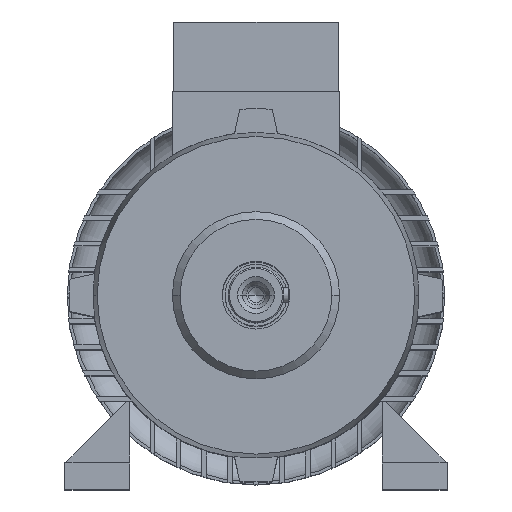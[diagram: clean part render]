
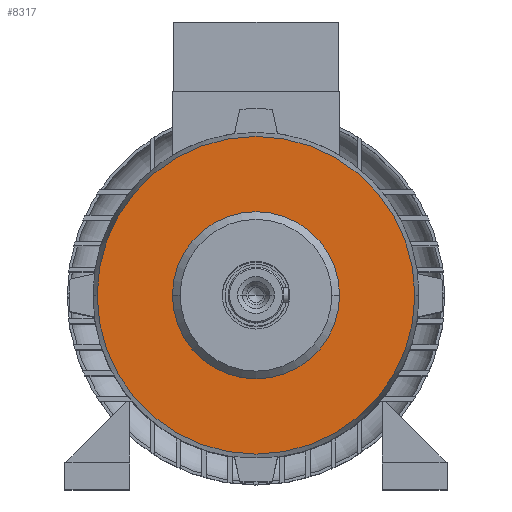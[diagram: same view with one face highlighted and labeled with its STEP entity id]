
A CAD part, top view. The second image highlights one B-rep face of the part: STEP entity #8317.
In plain terms, the highlighted planar face has unit normal (0, 0, 1).
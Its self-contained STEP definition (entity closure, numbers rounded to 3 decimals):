
#160 = VERTEX_POINT ( 'NONE', #3714 ) ;
#283 = CARTESIAN_POINT ( 'NONE',  ( 0., 0., 170.72 ) ) ;
#316 = DIRECTION ( 'NONE',  ( 1., 0., 0. ) ) ;
#318 = ORIENTED_EDGE ( 'NONE', *, *, #7211, .F. ) ;
#389 = PLANE ( 'NONE',  #841 ) ;
#562 = DIRECTION ( 'NONE',  ( 0., 0., 1. ) ) ;
#841 = AXIS2_PLACEMENT_3D ( 'NONE', #9241, #8369, #7397 ) ;
#879 = CIRCLE ( 'NONE', #9047, 108.079 ) ;
#1097 = DIRECTION ( 'NONE',  ( 0., 0., 1. ) ) ;
#1673 = VERTEX_POINT ( 'NONE', #4498 ) ;
#1994 = CIRCLE ( 'NONE', #3510, 56.88 ) ;
#2160 = ORIENTED_EDGE ( 'NONE', *, *, #11581, .F. ) ;
#2730 = AXIS2_PLACEMENT_3D ( 'NONE', #283, #6266, #3252 ) ;
#2793 = EDGE_LOOP ( 'NONE', ( #6796, #10373 ) ) ;
#3252 = DIRECTION ( 'NONE',  ( 1., 0., 0. ) ) ;
#3510 = AXIS2_PLACEMENT_3D ( 'NONE', #5414, #562, #12313 ) ;
#3714 = CARTESIAN_POINT ( 'NONE',  ( -56.88, 0., 170.72 ) ) ;
#4220 = CARTESIAN_POINT ( 'NONE',  ( 0., 0., 170.72 ) ) ;
#4352 = CARTESIAN_POINT ( 'NONE',  ( 56.88, 0., 170.72 ) ) ;
#4498 = CARTESIAN_POINT ( 'NONE',  ( -108.079, 0., 170.72 ) ) ;
#4509 = FACE_BOUND ( 'NONE', #5832, .T. ) ;
#5293 = CIRCLE ( 'NONE', #10043, 108.079 ) ;
#5414 = CARTESIAN_POINT ( 'NONE',  ( 0., 0., 170.72 ) ) ;
#5796 = EDGE_CURVE ( 'NONE', #12017, #1673, #5293, .T. ) ;
#5832 = EDGE_LOOP ( 'NONE', ( #318, #2160 ) ) ;
#6266 = DIRECTION ( 'NONE',  ( 0., 0., 1. ) ) ;
#6363 = FACE_OUTER_BOUND ( 'NONE', #2793, .T. ) ;
#6752 = VERTEX_POINT ( 'NONE', #4352 ) ;
#6796 = ORIENTED_EDGE ( 'NONE', *, *, #5796, .T. ) ;
#7142 = DIRECTION ( 'NONE',  ( 1., 0., 0. ) ) ;
#7211 = EDGE_CURVE ( 'NONE', #6752, #160, #10106, .T. ) ;
#7397 = DIRECTION ( 'NONE',  ( 1., 0., 0. ) ) ;
#8317 = ADVANCED_FACE ( 'NONE', ( #6363, #4509 ), #389, .F. ) ;
#8369 = DIRECTION ( 'NONE',  ( 0., 0., -1. ) ) ;
#8844 = CARTESIAN_POINT ( 'NONE',  ( 108.079, 0., 170.72 ) ) ;
#9047 = AXIS2_PLACEMENT_3D ( 'NONE', #4220, #11127, #7142 ) ;
#9241 = CARTESIAN_POINT ( 'NONE',  ( 0., 108.079, 170.72 ) ) ;
#10043 = AXIS2_PLACEMENT_3D ( 'NONE', #11885, #1097, #316 ) ;
#10106 = CIRCLE ( 'NONE', #2730, 56.88 ) ;
#10373 = ORIENTED_EDGE ( 'NONE', *, *, #12732, .T. ) ;
#11127 = DIRECTION ( 'NONE',  ( 0., 0., 1. ) ) ;
#11581 = EDGE_CURVE ( 'NONE', #160, #6752, #1994, .T. ) ;
#11885 = CARTESIAN_POINT ( 'NONE',  ( 0., 0., 170.72 ) ) ;
#12017 = VERTEX_POINT ( 'NONE', #8844 ) ;
#12313 = DIRECTION ( 'NONE',  ( 1., 0., 0. ) ) ;
#12732 = EDGE_CURVE ( 'NONE', #1673, #12017, #879, .T. ) ;
